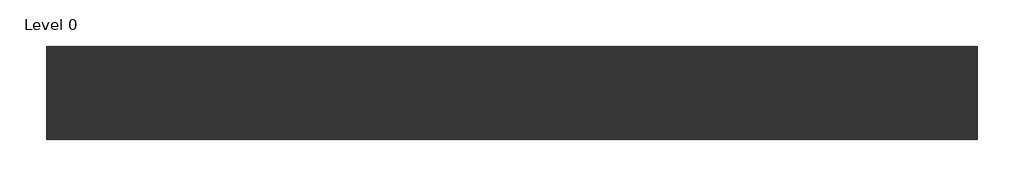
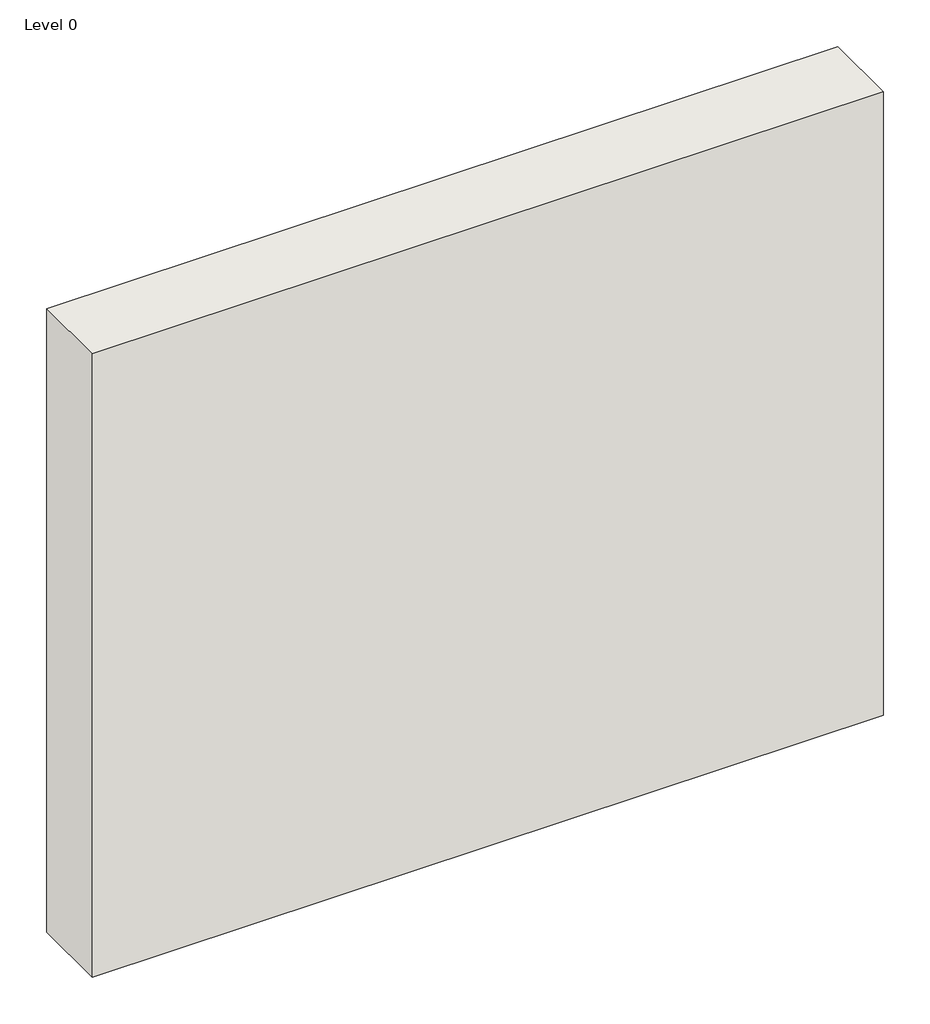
# One storey: 1 wall.
"""IFC4 building model written with IfcOpenShell, lengths in millimetres."""

from ifc_helpers import new_model, si_unit, origin, origin_with_axes, place, context, project, spatial, polyline, outline, extrude, element, save

model = new_model("IFC4")

# Units and contexts
model_context = context("Model", 3, world=origin())
ifc_project = project(units=[si_unit("LENGTHUNIT", "METRE", prefix="MILLI")], contexts=[model_context])

# Site, building, storey
site = spatial("IfcSite", under=ifc_project)
building = spatial("IfcBuilding", under=site)
storey = spatial("IfcBuildingStorey", under=building, Name="Level 0", Elevation=0.0)

# Wall
placement = place(None, origin())
element("IfcWall", 1, ObjectType="A326006a - GypWall AUDIO", at=placement, inside=storey, context=model_context, shape_type="SweptSolid", body=[
    extrude(outline(polyline([(2116.0807354, 443.7205641), (-883.9192646, 443.7205641), (-883.9192646, 743.7205641), (2116.0807354, 743.7205641), (2116.0807354, 443.7205641)])), origin_with_axes(), (0.0, 0.0, 1.0), 2500.0),
])

save(model, "model.ifc")
